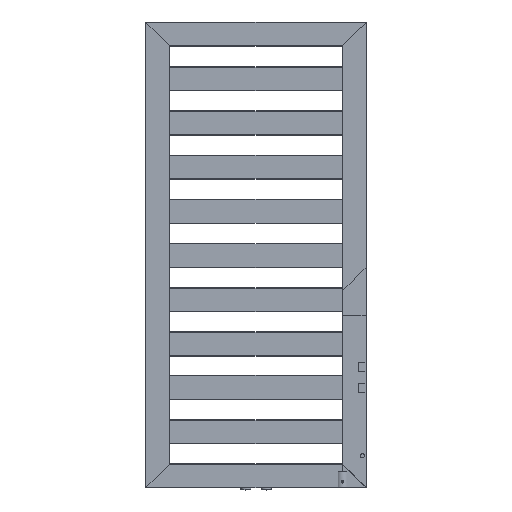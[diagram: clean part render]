
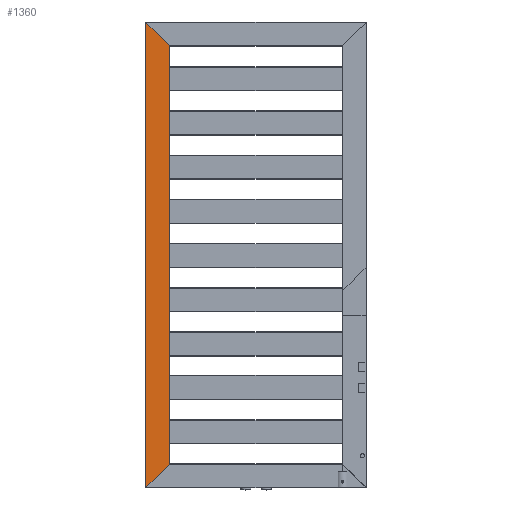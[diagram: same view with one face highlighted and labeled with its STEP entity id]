
A CAD part, top view. The second image highlights one B-rep face of the part: STEP entity #1360.
In plain terms, the highlighted planar face has unit normal (0, 0, 1) as drawn and (0, 0, -1) by its records, which use the part's own axes.
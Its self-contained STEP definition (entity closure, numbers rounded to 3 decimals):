
#1360 = ADVANCED_FACE( '', ( #2763 ), #2764, .T. );
#2763 = FACE_OUTER_BOUND( '', #4389, .T. );
#2764 = PLANE( '', #4390 );
#4389 = EDGE_LOOP( '', ( #7949, #7950, #7951, #7952 ) );
#4390 = AXIS2_PLACEMENT_3D( '', #7953, #7954, #7955 );
#7949 = ORIENTED_EDGE( '', *, *, #10112, .F. );
#7950 = ORIENTED_EDGE( '', *, *, #9559, .T. );
#7951 = ORIENTED_EDGE( '', *, *, #9599, .T. );
#7952 = ORIENTED_EDGE( '', *, *, #10058, .F. );
#7953 = CARTESIAN_POINT( '', ( 1., 1160., 0. ) );
#7954 = DIRECTION( '', ( 0., 0., -1. ) );
#7955 = DIRECTION( '', ( -1., 0., 0. ) );
#9559 = EDGE_CURVE( '', #11659, #11657, #11660, .T. );
#9599 = EDGE_CURVE( '', #11657, #11715, #11716, .T. );
#10058 = EDGE_CURVE( '', #12309, #11715, #12311, .T. );
#10112 = EDGE_CURVE( '', #11659, #12309, #12373, .T. );
#11657 = VERTEX_POINT( '', #14890 );
#11659 = VERTEX_POINT( '', #14892 );
#11660 = LINE( '', #14893, #14894 );
#11715 = VERTEX_POINT( '', #15006 );
#11716 = LINE( '', #15007, #15008 );
#12309 = VERTEX_POINT( '', #16032 );
#12311 = LINE( '', #16034, #16035 );
#12373 = LINE( '', #16117, #16118 );
#14890 = CARTESIAN_POINT( '', ( 59., 1159., 0. ) );
#14892 = CARTESIAN_POINT( '', ( 1., 1101., 0. ) );
#14893 = CARTESIAN_POINT( '', ( 30.5, 1130.5, 0. ) );
#14894 = VECTOR( '', #17294, 1000. );
#15006 = CARTESIAN_POINT( '', ( 59., 1., 0. ) );
#15007 = CARTESIAN_POINT( '', ( 59., 1160., 0. ) );
#15008 = VECTOR( '', #17339, 1000. );
#16032 = CARTESIAN_POINT( '', ( 1., 59., 0. ) );
#16034 = CARTESIAN_POINT( '', ( -549.5, 609.5, 0. ) );
#16035 = VECTOR( '', #17800, 1000. );
#16117 = CARTESIAN_POINT( '', ( 1., 1160., 0. ) );
#16118 = VECTOR( '', #17854, 1000. );
#17294 = DIRECTION( '', ( 0.707, 0.707, 0. ) );
#17339 = DIRECTION( '', ( 0., -1., 0. ) );
#17800 = DIRECTION( '', ( 0.707, -0.707, 0. ) );
#17854 = DIRECTION( '', ( 0., -1., 0. ) );
